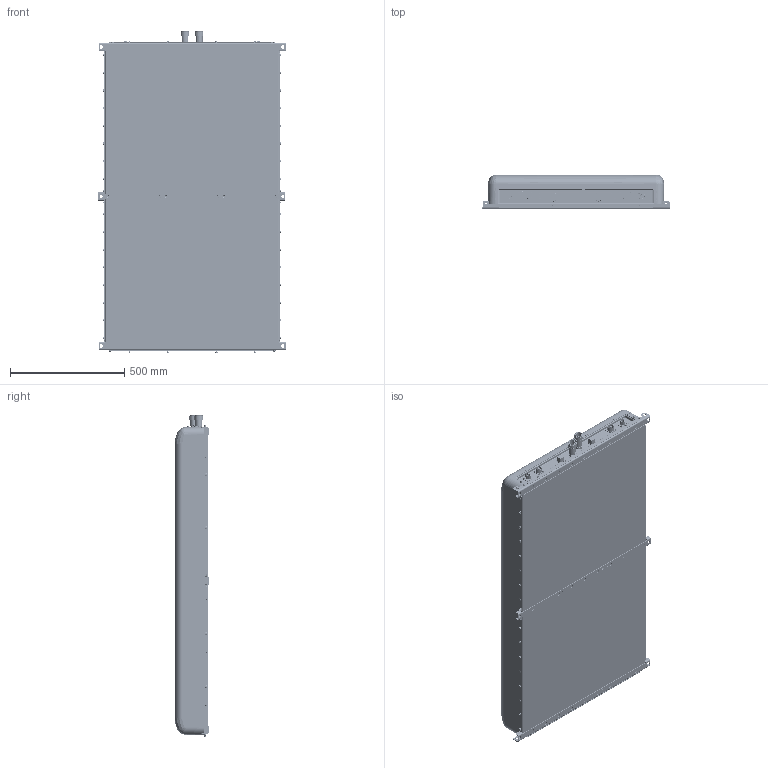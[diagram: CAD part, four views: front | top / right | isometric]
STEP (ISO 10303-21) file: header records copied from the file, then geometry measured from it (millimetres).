
FILE_DESCRIPTION (( 'STEP AP214' ), '1' );
FILE_NAME ('!ÐÃËÑ.563565.005-006 ËÈÀÁ Ñèãìà.STEP', '2026-08-24T13:15:28', ( '' ), ( '' ), 'SwSTEP 2.0', 'SolidWorks 2022', '' );
FILE_SCHEMA (( 'AUTOMOTIVE_DESIGN' ));
Length unit declared in the file: millimetre
Products named in the file (1): !РГЛС.563565.005-006 ЛИАБ Сигма
Bounding box: 820.5 x 150.5 x 1412.87 mm (x, y, z)
Volume: 110015867 mm3; surface area: 5309669.1 mm2
Topology: 214 solids, 216 shells, 5317 faces, 12187 edges, 7430 vertices
Faces by surface type: plane 2210, cylinder 1437, cone 1132, torus 278, bspline 260
Entity records: 225123 total; most frequent: CARTESIAN_POINT 44994, DIRECTION 25245, ORIENTED_EDGE 24198, EDGE_CURVE 12099, AXIS2_PLACEMENT_3D 9715, VERTEX_POINT 7430, EDGE_LOOP 5945, LINE 5815
